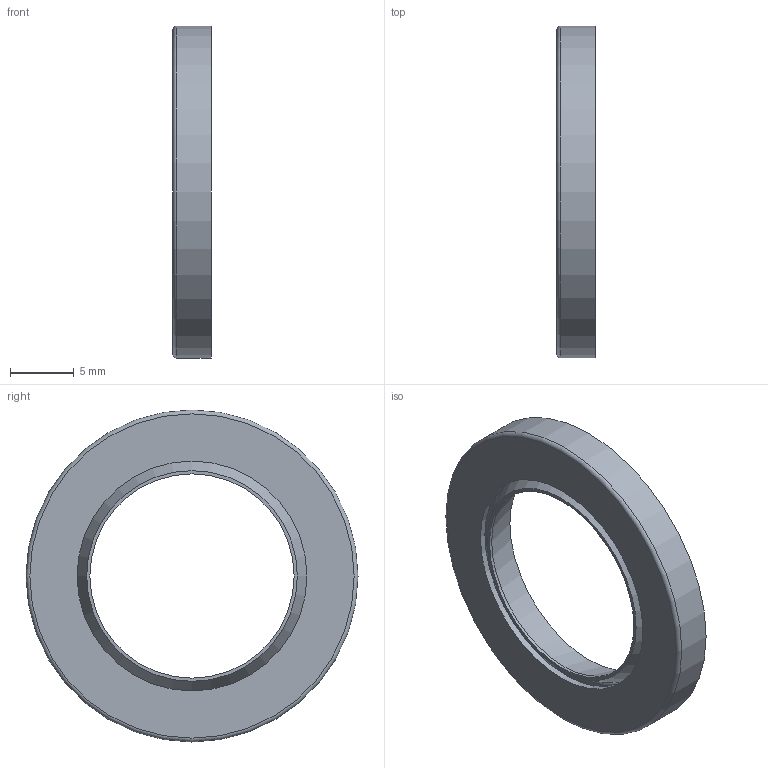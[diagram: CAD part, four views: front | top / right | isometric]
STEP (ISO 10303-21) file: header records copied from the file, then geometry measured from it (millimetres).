
FILE_DESCRIPTION(('STEP AP203'),'1');
FILE_NAME('//192.168.1.1/share/s-4 技術開発/s-4-4_CAD/s-4-4-3_見直し済み/007 修正済み/シール/SBX-16.step','2022-02-16T05:42:08',(' '),(' '),'Spatial InterOp 3D',' ',' ');
FILE_SCHEMA(('CONFIG_CONTROL_DESIGN'));
Length unit declared in the file: millimetre
Products named in the file (1): 1
Bounding box: 3 x 26 x 26 mm (x, y, z)
Volume: 780.8 mm3; surface area: 1385.5 mm2
Topology: 1 solids, 1 shells, 14 faces, 23 edges, 14 vertices
Faces by surface type: plane 5, cylinder 4, torus 3, cone 2
Full cylindrical faces by diameter (mm): 16 x1, 18 x1, 21.5 x1, 26 x1
Entity records: 332 total; most frequent: DIRECTION 58, CARTESIAN_POINT 43, AXIS2_PLACEMENT_3D 29, EDGE_LOOP 28, ORIENTED_EDGE 28, FACE_OUTER_BOUND 21, ADVANCED_FACE 14, EDGE_CURVE 14
